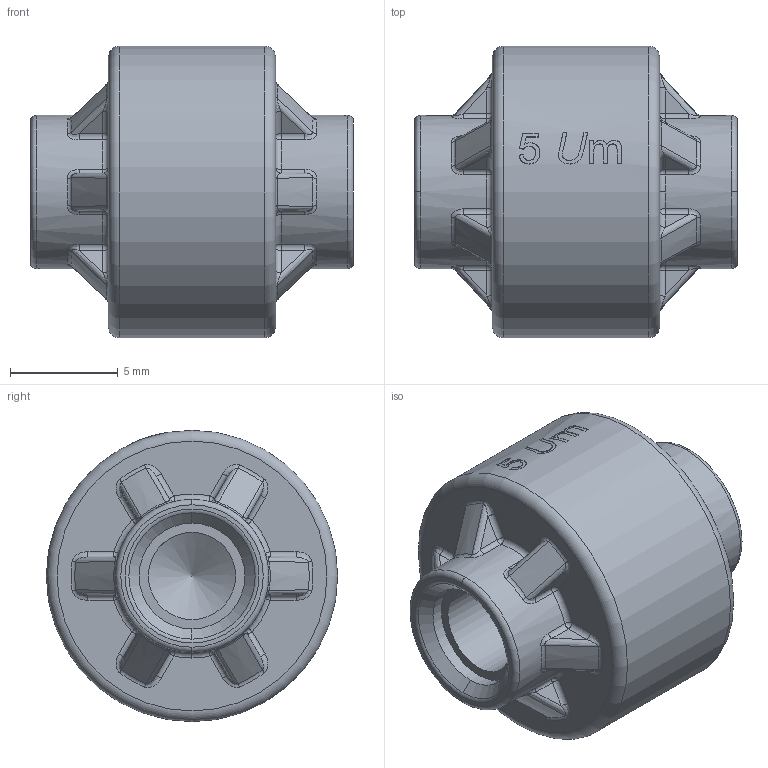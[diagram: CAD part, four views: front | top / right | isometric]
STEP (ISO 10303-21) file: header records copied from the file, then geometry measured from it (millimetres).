
FILE_DESCRIPTION(/* description */ ('SolidWorks IGES file using NURBS representation for surfaces '),/* implementation_level */ '2;1');
FILE_NAME(/* name */ 'K:\Normteile INVENTOR\Air-Logic\Filters\F-970-5.IGS.ipt.stp',/* time_stamp */ '2020-05-27T10:40:15+02:00',/* author */ ('amarsh'),/* organization */ (''),/* preprocessor_version */ 'ST-DEVELOPER v18',/* originating_system */ 'Autodesk Inventor 2020',/* authorisation */ '');
FILE_SCHEMA (('AUTOMOTIVE_DESIGN { 1 0 10303 214 3 1 1 }'));
Length unit declared in the file: millimetre
Products named in the file (1): F-970-5.IGS
Bounding box: 14.95 x 13.5 x 13.5 mm (x, y, z)
Volume: 1244.5 mm3; surface area: 911.2 mm2
Topology: 1 solids, 1 shells, 299 faces, 726 edges, 422 vertices
Faces by surface type: bspline 103, cylinder 62, torus 46, plane 46, sphere 24, cone 18
Full cylindrical faces by diameter (mm): 4.039 x2, 4.9 x2, 7.1 x2, 13.5 x1
Entity records: 15743 total; most frequent: CARTESIAN_POINT 9316, ORIENTED_EDGE 1420, DIRECTION 1254, EDGE_CURVE 710, AXIS2_PLACEMENT_3D 539, VERTEX_POINT 422, CIRCLE 330, EDGE_LOOP 308
